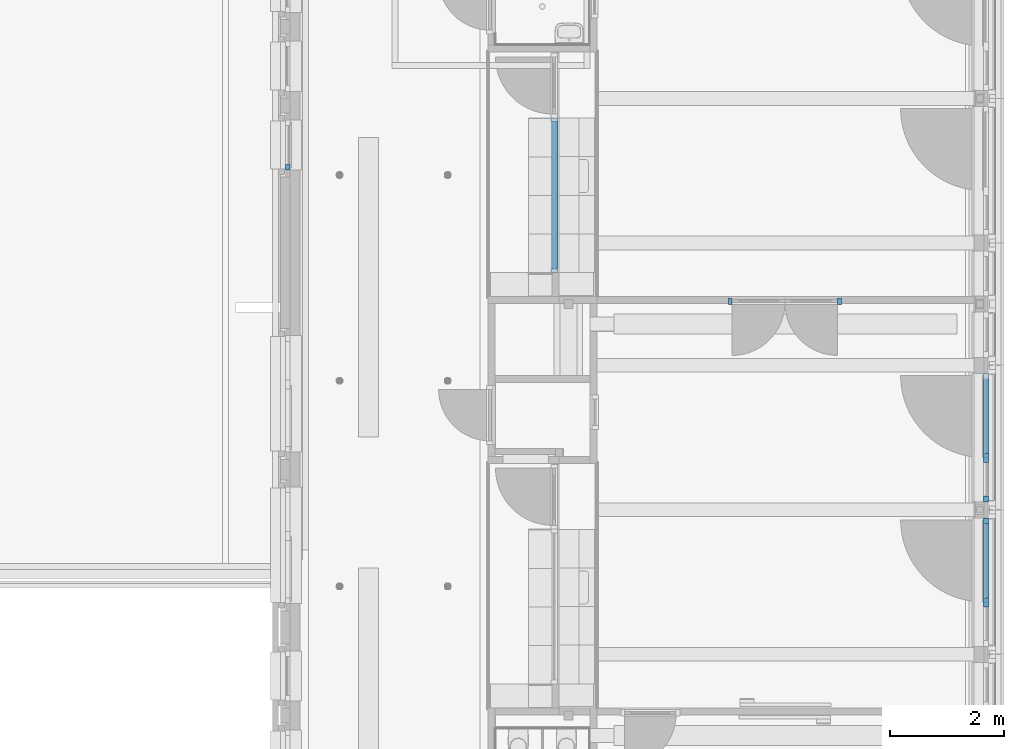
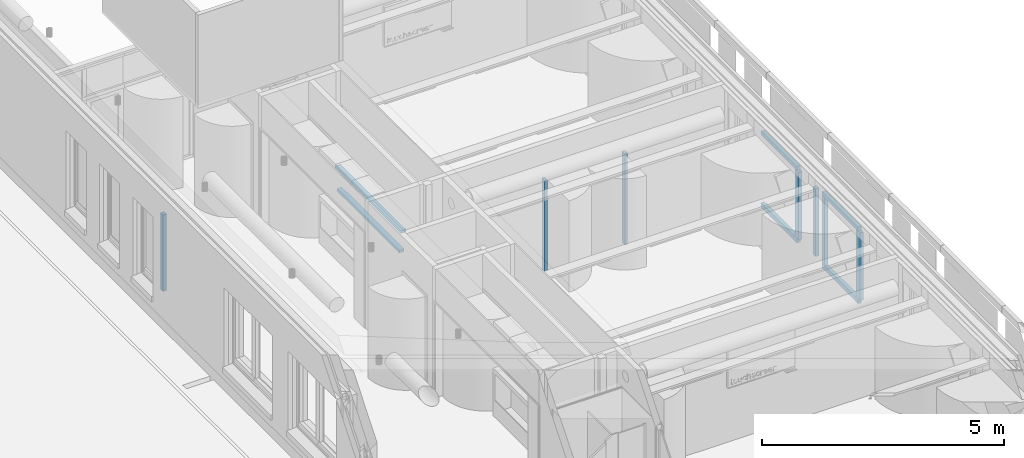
# One storey, part 9 of 128: 13 members, 5 elements without a shape of their own.
"""IFC2X3 building model written with IfcOpenShell, lengths in millimetres."""

import ifcopenshell
import ifcopenshell.guid

model = None  # the IFC model being written
_history = None  # IfcOwnerHistory: only IFC2X3 demands one
_inside = {}  # id of a spatial element -> (the spatial element, [elements in it])
_under = {}  # id of a project, library or spatial element -> (it, [spatial elements below it])
_declared = {}  # id of a project -> (the project, [libraries it declares])
_typed = {}  # id of a type object -> (the type object, [elements of that type])
_made_of = {}  # id of a material, layer set ... -> (it, [elements and type objects made of it])


def new_model(schema):
    """Start an empty IFC model of exactly this schema.

    Asked for "IFC4X3", IfcOpenShell would pick the latest addendum, in which some entities
    have other attributes; the version numbers below select the first issue.
    IFC2X3 requires an IfcOwnerHistory on every rooted entity: one is made here for all.
    """
    global model, _history
    if schema == "IFC4X3":
        model = ifcopenshell.file(schema_version=(4, 3, 0, 0))
    else:
        model = ifcopenshell.file(schema=schema)
    _inside.clear()
    _under.clear()
    _declared.clear()
    _typed.clear()
    _made_of.clear()
    _history = None
    if model.schema == "IFC2X3":
        org = make("IfcOrganization", Name="unknown")
        user = make(
            "IfcPersonAndOrganization",
            ThePerson=make("IfcPerson", FamilyName="unknown"),
            TheOrganization=org,
        )
        app = make(
            "IfcApplication",
            ApplicationDeveloper=org,
            Version="unknown",
            ApplicationFullName="unknown",
            ApplicationIdentifier="unknown",
        )
        _history = make(
            "IfcOwnerHistory",
            OwningUser=user,
            OwningApplication=app,
            ChangeAction="ADDED",
            CreationDate=0,
        )
    return model


def make(cls, **values):
    """One entity of the class cls with the attributes given. An attribute that is None is left unset."""
    return model.create_entity(
        cls, **{name: value for name, value in values.items() if value is not None}
    )


def entity(cls, *values):
    """Any entity or typed value of the class cls, its attributes in the order of the schema. None: left unset."""
    e = model.create_entity(cls)
    for i, value in enumerate(values):
        if value is not None:
            e[i] = value
    return e


def rooted(cls, **values):
    """An entity with a GlobalId (a new one), such as an element, a storey or a relation."""
    return make(cls, GlobalId=ifcopenshell.guid.new(), OwnerHistory=_history, **values)


def si_unit(unit_type, name, prefix=None):
    """IfcSIUnit, for example si_unit("LENGTHUNIT", "METRE", prefix="MILLI")."""
    return make("IfcSIUnit", UnitType=unit_type, Prefix=prefix, Name=name)


def converted_unit(unit_type, name, factor, base, dimensions=None, offset=None):
    """IfcConversionBasedUnit, such as the inch: factor (a typed value) times the base unit."""
    return make(
        "IfcConversionBasedUnit"
        if offset is None
        else "IfcConversionBasedUnitWithOffset",
        ConversionOffset=offset,
        Dimensions=None
        if dimensions is None
        else entity("IfcDimensionalExponents", *dimensions),
        UnitType=unit_type,
        Name=name,
        ConversionFactor=make(
            "IfcMeasureWithUnit", ValueComponent=factor, UnitComponent=base
        ),
    )


def derived_unit(unit_type, elements):
    """IfcDerivedUnit: a product of units, each with its exponent."""
    return make(
        "IfcDerivedUnit",
        Elements=[
            make("IfcDerivedUnitElement", Unit=unit, Exponent=power)
            for unit, power in elements
        ],
        UnitType=unit_type,
    )


def assignment(units):
    """IfcUnitAssignment: the units of a project."""
    return None if units is None else make("IfcUnitAssignment", Units=units)


def point(xyz):
    """IfcCartesianPoint."""
    return None if xyz is None else make("IfcCartesianPoint", Coordinates=xyz)


def direction(xyz):
    """IfcDirection."""
    return None if xyz is None else make("IfcDirection", DirectionRatios=xyz)


def frame(location, z_axis=None, x_axis=None):
    """IfcAxis2Placement3D, a coordinate frame: its origin and axes. An axis left out is left unset."""
    return make(
        "IfcAxis2Placement3D",
        Location=point(location),
        Axis=direction(z_axis),
        RefDirection=direction(x_axis),
    )


def frame_2d(location, x_axis=None):
    """IfcAxis2Placement2D, a coordinate frame in the plane: its origin and x axis."""
    return make(
        "IfcAxis2Placement2D", Location=point(location), RefDirection=direction(x_axis)
    )


def origin():
    """The frame at (0, 0, 0) with its axes left unset."""
    return frame((0.0, 0.0, 0.0))


def origin_2d_with_axis():
    """The frame at (0, 0) in the plane with the x axis (1, 0) written out."""
    return frame_2d((0.0, 0.0), x_axis=(1.0, 0.0))


def place(relative_to, where):
    """IfcLocalPlacement: puts the frame where relative to a parent placement (None: the world)."""
    return make(
        "IfcLocalPlacement", PlacementRelTo=relative_to, RelativePlacement=where
    )


def context(
    kind, dimensions, precision=None, world=None, true_north=None, identifier=None
):
    """IfcGeometricRepresentationContext, for example the 3D "Model" context."""
    return make(
        "IfcGeometricRepresentationContext",
        ContextIdentifier=identifier,
        ContextType=kind,
        CoordinateSpaceDimension=dimensions,
        Precision=precision,
        WorldCoordinateSystem=world,
        TrueNorth=true_north,
    )


def subcontext(parent, identifier, kind, view, scale=None):
    """IfcGeometricRepresentationSubContext, for example "Body" below "Model"."""
    return make(
        "IfcGeometricRepresentationSubContext",
        ContextIdentifier=identifier,
        ContextType=kind,
        ParentContext=parent,
        TargetScale=scale,
        TargetView=view,
    )


def project(units=None, contexts=None):
    """IfcProject with its units and contexts."""
    return rooted(
        "IfcProject",
        Name="project",
        RepresentationContexts=contexts,
        UnitsInContext=assignment(units),
    )


def spatial(cls, under=None, at=None, **own):
    """A site, building, storey or space (cls), placed at a placement, below another one or the project."""
    s = rooted(cls, ObjectPlacement=at, **own)
    if under is not None:
        _under.setdefault(under.id(), (under, []))[1].append(s)
    return s


def profile(cls, at=None, kind="AREA", **sizes):
    """A parametric profile (cls). Its sizes go by their IFC names, for example OverallWidth=200.0."""
    return make(cls, ProfileType=kind, Position=at, **sizes)


def rectangle(**sizes):
    """IfcRectangleProfileDef."""
    return profile("IfcRectangleProfileDef", **sizes)


def extrude(swept, where, along, depth):
    """IfcExtrudedAreaSolid: the profile swept, set in the frame where, extruded along a direction by depth."""
    return make(
        "IfcExtrudedAreaSolid",
        SweptArea=swept,
        Position=where,
        ExtrudedDirection=direction(along),
        Depth=depth,
    )


def shape(context_of_items, identifier, shape_type, items):
    """IfcShapeRepresentation: the items that make up one representation, for example the "Body"."""
    return make(
        "IfcShapeRepresentation",
        ContextOfItems=context_of_items,
        RepresentationIdentifier=identifier,
        RepresentationType=shape_type,
        Items=items,
    )


def source(mapping_origin, context_of_items, identifier, shape_type, items):
    """IfcRepresentationMap: a shape defined once, which mapped items show again and again."""
    return make(
        "IfcRepresentationMap",
        MappingOrigin=mapping_origin,
        MappedRepresentation=shape(context_of_items, identifier, shape_type, items),
    )


def transform(
    local_origin,
    x_axis=None,
    y_axis=None,
    z_axis=None,
    scale=None,
    scale2=None,
    scale3=None,
    uniform=True,
):
    """IfcCartesianTransformationOperator3D, or its non-uniform kind. x_axis, y_axis, z_axis: its Axis1, 2, 3."""
    if uniform:
        return make(
            "IfcCartesianTransformationOperator3D",
            Axis1=direction(x_axis),
            Axis2=direction(y_axis),
            LocalOrigin=point(local_origin),
            Scale=scale,
            Axis3=direction(z_axis),
        )
    return make(
        "IfcCartesianTransformationOperator3DnonUniform",
        Axis1=direction(x_axis),
        Axis2=direction(y_axis),
        LocalOrigin=point(local_origin),
        Scale=scale,
        Axis3=direction(z_axis),
        Scale2=scale2,
        Scale3=scale3,
    )


def mapped(mapping_source, mapping_target):
    """IfcMappedItem: shows the shape of a source again, moved by a transform."""
    return make(
        "IfcMappedItem", MappingSource=mapping_source, MappingTarget=mapping_target
    )


def material(Name=None, Category=None):
    """IfcMaterial."""
    return make("IfcMaterial", Name=Name, Category=Category)


def made_of(thing, what):
    """Note that an element or type object is made of a material, layer set ...; save() writes the relation."""
    if what is not None:
        _made_of.setdefault(what.id(), (what, []))[1].append(thing)
    return thing


def type_object(cls, material=None, **own):
    """A type object (cls), such as IfcWallType, which elements share."""
    return made_of(rooted(cls, **own), material)


def type_shapes(of_type, sources):
    """Give a type object the sources (RepresentationMaps) that its elements show as mapped items."""
    of_type.RepresentationMaps = sources


def element(
    cls,
    number,
    at=None,
    inside=None,
    cuts=None,
    type_object=None,
    material=None,
    context=None,
    identifier="Body",
    shape_type=None,
    held_by="IfcProductDefinitionShape",
    body=None,
    shapes=None,
    **own,
):
    """One element of the class cls, such as IfcWall. Its Tag is "e" and its number.

    at: its placement. inside: the storey or other place that contains it. cuts: it is an
    opening in that element (IfcRelVoidsElement). A single representation is given by context,
    identifier, shape_type and body (its items); several are given by shapes. held_by: the class
    of the entity that holds the representations. save() writes the other relations.
    """
    e = rooted(cls, Tag="e%d" % number, ObjectPlacement=at, **own)
    if body is not None:
        shapes = [shape(context, identifier, shape_type, body)]
    if shapes is not None:
        e.Representation = make(held_by, Representations=shapes)
    if inside is not None:
        _inside.setdefault(inside.id(), (inside, []))[1].append(e)
    if cuts is not None:
        rooted(
            "IfcRelVoidsElement", RelatingBuildingElement=cuts, RelatedOpeningElement=e
        )
    if type_object is not None:
        _typed.setdefault(type_object.id(), (type_object, []))[1].append(e)
    return made_of(e, material)


def aggregate(whole, parts):
    """IfcRelAggregates: a whole, such as a stair, and the parts it consists of."""
    return rooted("IfcRelAggregates", RelatingObject=whole, RelatedObjects=parts)


def save(model, path):
    """Write the relations noted so far, then the file.

    IfcRelAggregates (storeys below a building ...), IfcRelContainedInSpatialStructure (elements
    in a storey), IfcRelDefinesByType, IfcRelAssociatesMaterial and IfcRelDeclares: one each for
    every whole, place, type object, material and project.
    """
    for whole, parts in _under.values():
        aggregate(whole, parts)
    for where, things in _inside.values():
        rooted(
            "IfcRelContainedInSpatialStructure",
            RelatedElements=things,
            RelatingStructure=where,
        )
    for kind, things in _typed.values():
        rooted("IfcRelDefinesByType", RelatedObjects=things, RelatingType=kind)
    for what, things in _made_of.values():
        rooted("IfcRelAssociatesMaterial", RelatedObjects=things, RelatingMaterial=what)
    for by, libraries in _declared.values():
        rooted("IfcRelDeclares", RelatingContext=by, RelatedDefinitions=libraries)
    model.write(path)


model = new_model("IFC2X3")

# Units and contexts
model_context = context("Model", 3, precision=0.01, world=origin(), true_north=direction((6.123031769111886e-17, 1.0)))
body_context = subcontext(model_context, "Body", "Model", "MODEL_VIEW")
ifc_project = project(units=[si_unit("LENGTHUNIT", "METRE", prefix="MILLI"), si_unit("AREAUNIT", "SQUARE_METRE"), si_unit("VOLUMEUNIT", "CUBIC_METRE"), converted_unit("PLANEANGLEUNIT", "DEGREE", entity("IfcRatioMeasure", 0.017453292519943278), si_unit("PLANEANGLEUNIT", "RADIAN"), dimensions=[0, 0, 0, 0, 0, 0, 0]), si_unit("MASSUNIT", "GRAM", prefix="KILO"), derived_unit("MASSDENSITYUNIT", [(si_unit("MASSUNIT", "GRAM", prefix="KILO"), 1), (si_unit("LENGTHUNIT", "METRE"), -3)]), derived_unit("IONCONCENTRATIONUNIT", [(si_unit("MASSUNIT", "GRAM", prefix="KILO"), 1), (si_unit("LENGTHUNIT", "METRE"), -3)]), derived_unit("MOMENTOFINERTIAUNIT", [(si_unit("LENGTHUNIT", "METRE"), 4)]), si_unit("TIMEUNIT", "SECOND"), si_unit("FREQUENCYUNIT", "HERTZ"), si_unit("THERMODYNAMICTEMPERATUREUNIT", "DEGREE_CELSIUS"), derived_unit("THERMALTRANSMITTANCEUNIT", [(si_unit("MASSUNIT", "GRAM", prefix="KILO"), 1), (si_unit("THERMODYNAMICTEMPERATUREUNIT", "KELVIN"), -1), (si_unit("TIMEUNIT", "SECOND"), -3)]), derived_unit("THERMALCONDUCTANCEUNIT", [(si_unit("MASSUNIT", "GRAM", prefix="KILO"), 1), (si_unit("THERMODYNAMICTEMPERATUREUNIT", "KELVIN"), -1), (si_unit("TIMEUNIT", "SECOND"), -3), (si_unit("LENGTHUNIT", "METRE"), 1)]), derived_unit("VOLUMETRICFLOWRATEUNIT", [(si_unit("LENGTHUNIT", "METRE"), 3), (si_unit("TIMEUNIT", "SECOND"), -1)]), derived_unit("MASSFLOWRATEUNIT", [(si_unit("MASSUNIT", "GRAM", prefix="KILO"), 1), (si_unit("TIMEUNIT", "SECOND"), -1)]), derived_unit("ROTATIONALFREQUENCYUNIT", [(si_unit("TIMEUNIT", "SECOND"), -1)]), si_unit("ELECTRICCURRENTUNIT", "AMPERE"), si_unit("ELECTRICVOLTAGEUNIT", "VOLT"), si_unit("POWERUNIT", "WATT"), si_unit("FORCEUNIT", "NEWTON", prefix="KILO"), si_unit("ILLUMINANCEUNIT", "LUX"), si_unit("LUMINOUSFLUXUNIT", "LUMEN"), si_unit("LUMINOUSINTENSITYUNIT", "CANDELA"), derived_unit("USERDEFINED", [(si_unit("MASSUNIT", "GRAM", prefix="KILO"), -1), (si_unit("LENGTHUNIT", "METRE"), -2), (si_unit("TIMEUNIT", "SECOND"), 3), (si_unit("LUMINOUSFLUXUNIT", "LUMEN"), 1)]), derived_unit("USERDEFINED", [(si_unit("MASSUNIT", "GRAM", prefix="KILO"), 1), (si_unit("TIMEUNIT", "SECOND"), -3), (si_unit("LENGTHUNIT", "METRE"), 3), (si_unit("ELECTRICCURRENTUNIT", "AMPERE"), -2)]), derived_unit("SOUNDPOWERUNIT", [(si_unit("MASSUNIT", "GRAM", prefix="KILO"), 1), (si_unit("TIMEUNIT", "SECOND"), -3), (si_unit("LENGTHUNIT", "METRE"), 2)]), derived_unit("SOUNDPRESSUREUNIT", [(si_unit("MASSUNIT", "GRAM", prefix="KILO"), 1), (si_unit("LENGTHUNIT", "METRE"), -1), (si_unit("TIMEUNIT", "SECOND"), -2)]), derived_unit("LINEARVELOCITYUNIT", [(si_unit("LENGTHUNIT", "METRE"), 1), (si_unit("TIMEUNIT", "SECOND"), -1)]), si_unit("PRESSUREUNIT", "PASCAL"), derived_unit("USERDEFINED", [(si_unit("MASSUNIT", "GRAM", prefix="KILO"), 1), (si_unit("LENGTHUNIT", "METRE"), -2), (si_unit("TIMEUNIT", "SECOND"), -2)]), derived_unit("LINEARFORCEUNIT", [(si_unit("MASSUNIT", "GRAM", prefix="KILO"), 1), (si_unit("TIMEUNIT", "SECOND"), -2)]), derived_unit("PLANARFORCEUNIT", [(si_unit("MASSUNIT", "GRAM", prefix="KILO"), 1), (si_unit("LENGTHUNIT", "METRE"), -1), (si_unit("TIMEUNIT", "SECOND"), -2)]), derived_unit("SPECIFICHEATCAPACITYUNIT", [(si_unit("THERMODYNAMICTEMPERATUREUNIT", "KELVIN"), -1), (si_unit("LENGTHUNIT", "METRE"), 2), (si_unit("TIMEUNIT", "SECOND"), -2)]), derived_unit("HEATINGVALUEUNIT", [(si_unit("LENGTHUNIT", "METRE"), 2), (si_unit("TIMEUNIT", "SECOND"), -2)]), derived_unit("VAPORPERMEABILITYUNIT", [(si_unit("LENGTHUNIT", "METRE"), -1), (si_unit("TIMEUNIT", "SECOND"), 1)]), derived_unit("DYNAMICVISCOSITYUNIT", [(si_unit("MASSUNIT", "GRAM", prefix="KILO"), 1), (si_unit("TIMEUNIT", "SECOND"), -1), (si_unit("LENGTHUNIT", "METRE"), -1)]), derived_unit("THERMALEXPANSIONCOEFFICIENTUNIT", [(si_unit("THERMODYNAMICTEMPERATUREUNIT", "KELVIN"), -1)]), derived_unit("MODULUSOFELASTICITYUNIT", [(si_unit("MASSUNIT", "GRAM", prefix="KILO"), 1), (si_unit("LENGTHUNIT", "METRE"), -1), (si_unit("TIMEUNIT", "SECOND"), -2)]), derived_unit("ISOTHERMALMOISTURECAPACITYUNIT", [(si_unit("LENGTHUNIT", "METRE"), 3), (si_unit("MASSUNIT", "GRAM", prefix="KILO"), -1)]), derived_unit("MOISTUREDIFFUSIVITYUNIT", [(si_unit("TIMEUNIT", "SECOND"), -1), (si_unit("LENGTHUNIT", "METRE"), 2)])], contexts=[model_context])

# Site, building, storey
site_placement = place(None, frame((0.0, 300.0, 0.0)))
site = spatial("IfcSite", under=ifc_project, at=site_placement, Name="<Kadastrale nummers>", CompositionType="ELEMENT")
building_placement = place(site_placement, origin())
building = spatial("IfcBuilding", under=site, at=building_placement, CompositionType="ELEMENT")
storey_placement = place(building_placement, frame((0.0, 0.0, 3560.0000331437)))
storey = spatial("IfcBuildingStorey", under=building, at=storey_placement, Name="01 eerste verdieping", CompositionType="ELEMENT", Elevation=3560.0000331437)

# Curtain wall, members
curtain_wall_type_1 = type_object("IfcCurtainWallType", Name="Curtain Wall:Merk H07", PredefinedType="NOTDEFINED")
curtain_wall_1_placement = place(storey_placement, frame((0.0, 0.0, -3560.0000331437)))
curtain_wall_1 = element("IfcCurtainWall", 1, at=curtain_wall_1_placement, inside=storey, type_object=curtain_wall_type_1, Name="Curtain Wall:Merk H07", ObjectType="Curtain Wall:Merk H07")
ifc_material_1 = material(Name="ISR_HPL")
member_type_1 = type_object("IfcMemberType", Name="Rectangular Mullion:31_CWM_067x114", PredefinedType="MULLION", material=ifc_material_1)
shared_shape_1 = source(origin(), body_context, "Body", "SweptSolid", [
    extrude(rectangle(XDim=113.99999999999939, YDim=67.0, at=origin_2d_with_axis()), frame((-33.5, 57.0, -2303.0), z_axis=(0.0, 0.0, 1.0), x_axis=(0.0, -1.0, 0.0)), (0.0, 0.0, 1.0), 2303.0),
])
type_shapes(member_type_1, [shared_shape_1])
member_1_placement = place(curtain_wall_1_placement, frame((46180.0, 23808.99862327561, 3670.0000350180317), z_axis=(0.0, 0.0, -1.0), x_axis=(1.0, 0.0, 0.0)))
member_1 = element("IfcMember", 2, at=member_1_placement, type_object=member_type_1, material=ifc_material_1, Name="Rectangular Mullion:31_CWM_067x114", ObjectType="Rectangular Mullion:31_CWM_067x114", context=body_context, shape_type="MappedRepresentation", body=[
    mapped(shared_shape_1, transform((0.0, 0.0, 0.0), scale=1.0)),
])
member_type_2 = type_object("IfcMemberType", Name="Rectangular Mullion:31_CWM_067x114", PredefinedType="MULLION", material=ifc_material_1)
shared_shape_2 = source(origin(), body_context, "Body", "SweptSolid", [
    extrude(rectangle(XDim=113.99999999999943, YDim=67.0, at=origin_2d_with_axis()), frame((-33.5, 57.0, -2303.0), z_axis=(0.0, 0.0, 1.0), x_axis=(0.0, -1.0, 0.0)), (0.0, 0.0, 1.0), 2303.0000000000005),
])
type_shapes(member_type_2, [shared_shape_2])
member_2_placement = place(curtain_wall_1_placement, frame((44200.0, 23808.998623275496, 5973.0000331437), z_axis=(0.0, 0.0, 1.0), x_axis=(-1.0, 0.0, 0.0)))
member_2 = element("IfcMember", 3, at=member_2_placement, type_object=member_type_2, material=ifc_material_1, Name="Rectangular Mullion:31_CWM_067x114", ObjectType="Rectangular Mullion:31_CWM_067x114", context=body_context, shape_type="MappedRepresentation", body=[
    mapped(shared_shape_2, transform((0.0, 0.0, 0.0), scale=1.0)),
])
aggregate(curtain_wall_1, [member_1, member_2])

curtain_wall_type_2 = type_object("IfcCurtainWallType", Name="Curtain Wall:Merk H08", PredefinedType="NOTDEFINED")
curtain_wall_2_placement = place(storey_placement, frame((0.0, 0.0, -3560.0000331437)))
curtain_wall_2 = element("IfcCurtainWall", 4, at=curtain_wall_2_placement, inside=storey, type_object=curtain_wall_type_2, Name="Curtain Wall:Merk H08", ObjectType="Curtain Wall:Merk H08")
member_type_3 = type_object("IfcMemberType", Name="Rectangular Mullion:31_CWM_067x114", PredefinedType="MULLION", material=ifc_material_1)
shared_shape_3 = source(origin(), body_context, "Body", "SweptSolid", [
    extrude(rectangle(XDim=113.99999999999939, YDim=67.0, at=origin_2d_with_axis()), frame((-33.5, -57.0, -2710.0), z_axis=(0.0, 0.0, 1.0), x_axis=(0.0, -1.0, 0.0)), (0.0, 0.0, 1.0), 2710.0000000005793),
])
type_shapes(member_type_3, [shared_shape_3])
member_3_placement = place(curtain_wall_2_placement, frame((41209.0, 26960.998623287, 5450.0000331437), z_axis=(0.0, 1.0, 0.0), x_axis=(0.0, 0.0, 1.0)))
member_3 = element("IfcMember", 5, at=member_3_placement, type_object=member_type_3, material=ifc_material_1, Name="Rectangular Mullion:31_CWM_067x114", ObjectType="Rectangular Mullion:31_CWM_067x114", context=body_context, shape_type="MappedRepresentation", body=[
    mapped(shared_shape_3, transform((0.0, 0.0, 0.0), scale=1.0)),
])
member_type_4 = type_object("IfcMemberType", Name="Rectangular Mullion:31_CWM_067x114", PredefinedType="MULLION", material=ifc_material_1)
shared_shape_4 = source(origin(), body_context, "Body", "SweptSolid", [
    extrude(rectangle(XDim=113.99999999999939, YDim=67.0, at=origin_2d_with_axis()), frame((-33.5, -57.0, -2576.0), z_axis=(0.0, 0.0, 1.0), x_axis=(0.0, -1.0, 0.0)), (0.0, 0.0, 1.0), 2576.0000000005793),
])
type_shapes(member_type_4, [shared_shape_4])
member_4_placement = place(curtain_wall_2_placement, frame((41209.0, 24317.99862328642, 4850.0000331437), z_axis=(0.0, -1.0, 0.0), x_axis=(0.0, 0.0, -1.0)))
member_4 = element("IfcMember", 6, at=member_4_placement, type_object=member_type_4, material=ifc_material_1, Name="Rectangular Mullion:31_CWM_067x114", ObjectType="Rectangular Mullion:31_CWM_067x114", context=body_context, shape_type="MappedRepresentation", body=[
    mapped(shared_shape_4, transform((0.0, 0.0, 0.0), scale=1.0)),
])
aggregate(curtain_wall_2, [member_3, member_4])

# Curtain wall, member
curtain_wall_type_3 = type_object("IfcCurtainWallType", Name="Curtain Wall:K_31", PredefinedType="NOTDEFINED")
curtain_wall_3_placement = place(storey_placement, frame((0.0, 0.0, -3560.0000331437)))
curtain_wall_3 = element("IfcCurtainWall", 7, at=curtain_wall_3_placement, inside=storey, type_object=curtain_wall_type_3, Name="Curtain Wall:K_31", ObjectType="Curtain Wall:K_31")
ifc_material_2 = material(Name="ISR_Kunststof_RAL7006")
member_type_5 = type_object("IfcMemberType", Name="Rectangular Mullion:100x83 Gealan Kubus", PredefinedType="MULLION", material=ifc_material_2)
shared_shape_5 = source(origin(), body_context, "Body", "SweptSolid", [
    extrude(rectangle(XDim=83.0, YDim=100.0, at=origin_2d_with_axis()), frame((-50.0, 41.5, -1929.9999649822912), z_axis=(0.0, 0.0, 1.0), x_axis=(0.0, -1.0, 0.0)), (0.0, 0.0, 1.0), 1929.9999649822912),
])
type_shapes(member_type_5, [shared_shape_5])
member_5_placement = place(curtain_wall_3_placement, frame((36532.0, 26045.0, 4460.000035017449), z_axis=(0.0, 0.0, -1.0), x_axis=(0.0, -1.0, 0.0)))
member_5 = element("IfcMember", 8, at=member_5_placement, type_object=member_type_5, material=ifc_material_2, Name="Rectangular Mullion:100x83 Gealan Kubus", ObjectType="Rectangular Mullion:100x83 Gealan Kubus", context=body_context, shape_type="MappedRepresentation", body=[
    mapped(shared_shape_5, transform((0.0, 0.0, 0.0), scale=1.0)),
])
aggregate(curtain_wall_3, [member_5])

curtain_wall_type_4 = type_object("IfcCurtainWallType", Name="Curtain Wall:K_22", PredefinedType="NOTDEFINED")
curtain_wall_4_placement = place(storey_placement, frame((0.0, 0.0, -3560.0000331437)))
curtain_wall_4 = element("IfcCurtainWall", 9, at=curtain_wall_4_placement, inside=storey, type_object=curtain_wall_type_4, Name="Curtain Wall:K_22", ObjectType="Curtain Wall:K_22")
member_type_6 = type_object("IfcMemberType", Name="Rectangular Mullion:100x83 Gealan Kubus", PredefinedType="MULLION", material=ifc_material_2)
shared_shape_6 = source(origin(), body_context, "Body", "SweptSolid", [
    extrude(rectangle(XDim=83.0, YDim=100.0, at=origin_2d_with_axis()), frame((-50.0, 41.5, -1483.0), z_axis=(0.0, 0.0, 1.0), x_axis=(0.0, -1.0, 0.0)), (0.0, 0.0, 1.0), 1483.0000000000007),
])
type_shapes(member_type_6, [shared_shape_6])
member_6_placement = place(curtain_wall_4_placement, frame((48668.0, 22490.0, 6390.0), z_axis=(0.0, 1.0, 0.0), x_axis=(0.0, 0.0, 1.0)))
member_6 = element("IfcMember", 10, at=member_6_placement, type_object=member_type_6, material=ifc_material_2, Name="Rectangular Mullion:100x83 Gealan Kubus", ObjectType="Rectangular Mullion:100x83 Gealan Kubus", context=body_context, shape_type="MappedRepresentation", body=[
    mapped(shared_shape_6, transform((0.0, 0.0, 0.0), scale=1.0)),
])

# Curtain wall, members
curtain_wall_5_placement = place(storey_placement, frame((0.0, 0.0, -3560.0000331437)))
curtain_wall_5 = element("IfcCurtainWall", 11, at=curtain_wall_5_placement, inside=storey, type_object=curtain_wall_type_4, Name="Curtain Wall:K_22", ObjectType="Curtain Wall:K_22")
member_7_placement = place(curtain_wall_5_placement, frame((48668.0, 19960.0, 6390.0), z_axis=(0.0, 1.0, 0.0), x_axis=(0.0, 0.0, 1.0)))
member_7 = element("IfcMember", 12, at=member_7_placement, type_object=member_type_6, material=ifc_material_2, Name="Rectangular Mullion:100x83 Gealan Kubus", ObjectType="Rectangular Mullion:100x83 Gealan Kubus", context=body_context, shape_type="MappedRepresentation", body=[
    mapped(shared_shape_6, transform((0.0, 0.0, 0.0), scale=1.0)),
])
member_type_7 = type_object("IfcMemberType", Name="Rectangular Mullion:100x83 Gealan Kubus", PredefinedType="MULLION", material=ifc_material_2)
shared_shape_7 = source(origin(), body_context, "Body", "SweptSolid", [
    extrude(rectangle(XDim=82.99999999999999, YDim=100.0, at=origin_2d_with_axis()), frame((-50.0, 41.49999999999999, -1709.9999649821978), z_axis=(0.0, 0.0, 1.0), x_axis=(0.0, -1.0, 0.0)), (0.0, 0.0, 1.0), 1709.9999649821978),
])
type_shapes(member_type_7, [shared_shape_7])
member_8_placement = place(curtain_wall_5_placement, frame((48668.0, 19960.0, 4580.0000331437), z_axis=(0.0, 0.0, -1.0), x_axis=(0.0, 1.0, 0.0)))
member_8 = element("IfcMember", 13, at=member_8_placement, type_object=member_type_7, material=ifc_material_2, Name="Rectangular Mullion:100x83 Gealan Kubus", ObjectType="Rectangular Mullion:100x83 Gealan Kubus", context=body_context, shape_type="MappedRepresentation", body=[
    mapped(shared_shape_7, transform((0.0, 0.0, 0.0), scale=1.0)),
])

# Member
member_type_8 = type_object("IfcMemberType", Name="Rectangular Mullion:100x83 Gealan Kubus", PredefinedType="MULLION", material=ifc_material_2)
shared_shape_8 = source(origin(), body_context, "Body", "SweptSolid", [
    extrude(rectangle(XDim=83.00000000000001, YDim=100.0, at=origin_2d_with_axis()), frame((-50.0, 41.50000000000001, -1709.9999649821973), z_axis=(0.0, 0.0, 1.0), x_axis=(0.0, -1.0, 0.0)), (0.0, 0.0, 1.0), 1709.9999649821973),
])
type_shapes(member_type_8, [shared_shape_8])
member_9_placement = place(curtain_wall_4_placement, frame((48668.0, 20240.0, 6290.0), z_axis=(0.0, 0.0, 1.0), x_axis=(0.0, -1.0, 0.0)))
member_9 = element("IfcMember", 14, at=member_9_placement, type_object=member_type_8, material=ifc_material_2, Name="Rectangular Mullion:100x83 Gealan Kubus", ObjectType="Rectangular Mullion:100x83 Gealan Kubus", context=body_context, shape_type="MappedRepresentation", body=[
    mapped(shared_shape_8, transform((0.0, 0.0, 0.0), scale=1.0)),
])

member_type_9 = type_object("IfcMemberType", Name="Rectangular Mullion:120x83 Gealan Kubus", PredefinedType="MULLION", material=ifc_material_2)
shared_shape_9 = source(origin(), body_context, "Body", "SweptSolid", [
    extrude(rectangle(XDim=83.00000000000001, YDim=120.0, at=origin_2d_with_axis()), frame((-60.0, 41.50000000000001, -1483.0), z_axis=(0.0, 0.0, 1.0), x_axis=(0.0, -1.0, 0.0)), (0.0, 0.0, 1.0), 1483.0000000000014),
])
type_shapes(member_type_9, [shared_shape_9])
member_10_placement = place(curtain_wall_4_placement, frame((48668.0, 21007.0, 4460.000035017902), z_axis=(0.0, -1.0, 0.0), x_axis=(0.0, 0.0, -1.0)))
member_10 = element("IfcMember", 15, at=member_10_placement, type_object=member_type_9, material=ifc_material_2, Name="Rectangular Mullion:120x83 Gealan Kubus", ObjectType="Rectangular Mullion:120x83 Gealan Kubus", context=body_context, shape_type="MappedRepresentation", body=[
    mapped(shared_shape_9, transform((0.0, 0.0, 0.0), scale=1.0)),
])

member_11_placement = place(curtain_wall_5_placement, frame((48668.0, 18477.0, 4460.000035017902), z_axis=(0.0, -1.0, 0.0), x_axis=(0.0, 0.0, -1.0)))
member_11 = element("IfcMember", 16, at=member_11_placement, type_object=member_type_9, material=ifc_material_2, Name="Rectangular Mullion:120x83 Gealan Kubus", ObjectType="Rectangular Mullion:120x83 Gealan Kubus", context=body_context, shape_type="MappedRepresentation", body=[
    mapped(shared_shape_9, transform((0.0, 0.0, 0.0), scale=1.0)),
])

member_type_10 = type_object("IfcMemberType", Name="Rectangular Mullion:154x83 Gealan Kubus", PredefinedType="MULLION", material=ifc_material_2)
shared_shape_10 = source(origin(), body_context, "Body", "SweptSolid", [
    extrude(rectangle(XDim=83.00000000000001, YDim=154.0, at=origin_2d_with_axis()), frame((0.0, 41.50000000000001, -1710.0), z_axis=(0.0, 0.0, 1.0), x_axis=(0.0, -1.0, 0.0)), (0.0, 0.0, 1.0), 1710.0000000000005),
])
type_shapes(member_type_10, [shared_shape_10])
member_12_placement = place(curtain_wall_4_placement, frame((48668.0, 21007.0, 4580.0000331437), z_axis=(0.0, 0.0, -1.0), x_axis=(0.0, 1.0, 0.0)))
member_12 = element("IfcMember", 17, at=member_12_placement, type_object=member_type_10, material=ifc_material_2, Name="Rectangular Mullion:154x83 Gealan Kubus", ObjectType="Rectangular Mullion:154x83 Gealan Kubus", context=body_context, shape_type="MappedRepresentation", body=[
    mapped(shared_shape_10, transform((0.0, 0.0, 0.0), scale=1.0)),
])

aggregate(curtain_wall_4, [member_6, member_9, member_10, member_12])

member_13_placement = place(curtain_wall_5_placement, frame((48668.0, 18477.0, 4580.0000331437), z_axis=(0.0, 0.0, -1.0), x_axis=(0.0, 1.0, 0.0)))
member_13 = element("IfcMember", 18, at=member_13_placement, type_object=member_type_10, material=ifc_material_2, Name="Rectangular Mullion:154x83 Gealan Kubus", ObjectType="Rectangular Mullion:154x83 Gealan Kubus", context=body_context, shape_type="MappedRepresentation", body=[
    mapped(shared_shape_10, transform((0.0, 0.0, 0.0), scale=1.0)),
])

aggregate(curtain_wall_5, [member_7, member_8, member_11, member_13])

save(model, "model.ifc")
